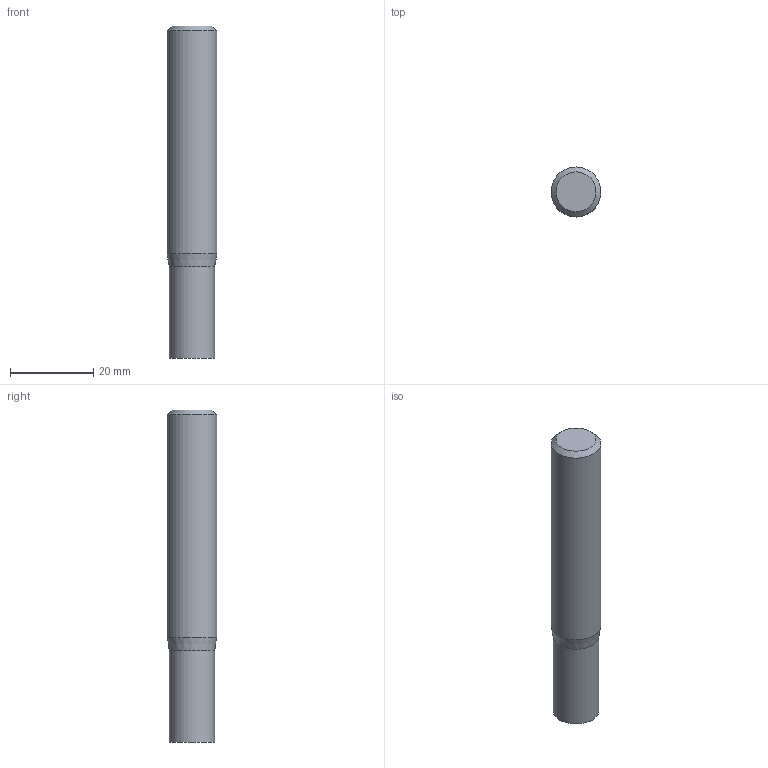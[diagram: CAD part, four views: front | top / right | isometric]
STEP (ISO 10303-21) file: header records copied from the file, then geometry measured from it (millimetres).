
FILE_DESCRIPTION((''),'2;1');
FILE_NAME('C:\Users\nsx150\AppData\Local\Temp\Mastercam 2021\QTW1OOEEGF\TEMP.step','2021-04-08T10:37:07',(''),(''),'STEP Write','Mastercam 2021 ... CNC Software, Inc.','');
FILE_SCHEMA(('AUTOMOTIVE_DESIGN'));
Length unit declared in the file: millimetre
Products named in the file (1): None
Bounding box: 12 x 12 x 80 mm (x, y, z)
Volume: 8596.1 mm3; surface area: 3313.1 mm2
Topology: 2 solids, 2 shells, 8 faces, 10 edges, 6 vertices
Faces by surface type: plane 4, cylinder 2, cone 2
Full cylindrical faces by diameter (mm): 11 x1, 12 x1
Entity records: 190 total; most frequent: DIRECTION 32, CARTESIAN_POINT 22, AXIS2_PLACEMENT_3D 16, ORIENTED_EDGE 12, EDGE_LOOP 12, STYLED_ITEM 11, ADVANCED_FACE 8, VERTEX_POINT 6
